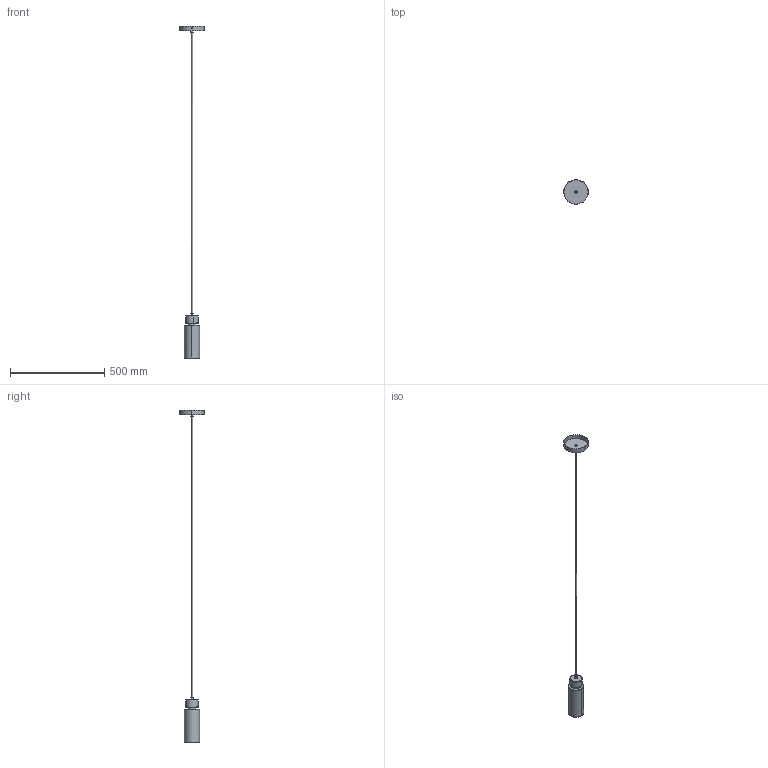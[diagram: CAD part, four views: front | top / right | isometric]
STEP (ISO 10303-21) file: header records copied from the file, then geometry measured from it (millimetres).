
FILE_DESCRIPTION(/* description */ (''),/* implementation_level */ '2;1');
FILE_NAME(/* name */ '5HEB5S~H',/* time_stamp */ '2022-05-17T15:38:25+02:00',/* author */ (''),/* organization */ (''),/* preprocessor_version */ 'ST-DEVELOPER v15',/* originating_system */ '',/* authorisation */ '');
FILE_SCHEMA (('AUTOMOTIVE_DESIGN'));
Length unit declared in the file: millimetre
Products named in the file (1): Document
Bounding box: 130 x 130 x 1762.02 mm (x, y, z)
Volume: 265357.1 mm3; surface area: 259056.6 mm2
Topology: 11 solids, 14 shells, 116 faces, 256 edges, 164 vertices
Faces by surface type: bspline 116
Entity records: 19376 total; most frequent: CARTESIAN_POINT 16204, B_SPLINE_CURVE_WITH_KNOTS 521, ORIENTED_EDGE 490, PCURVE 490, DEFINITIONAL_REPRESENTATION 490, SURFACE_CURVE 256, EDGE_CURVE 256, VERTEX_POINT 164
